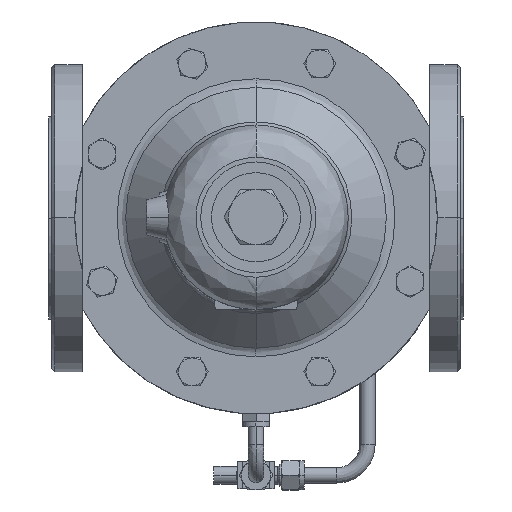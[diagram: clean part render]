
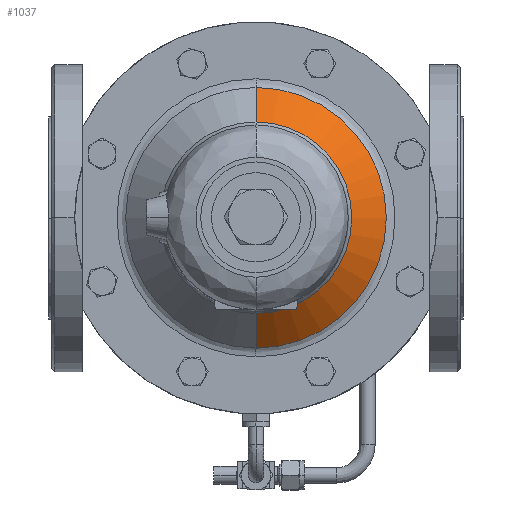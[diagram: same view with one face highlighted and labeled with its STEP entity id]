
A CAD part, top view. The second image highlights one B-rep face of the part: STEP entity #1037.
In plain terms, the highlighted free-form (B-spline) face has degree [2, 1] with [5, 2] control points.
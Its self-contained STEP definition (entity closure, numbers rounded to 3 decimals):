
#1037=ADVANCED_FACE('',(#4439),#4438,.T.);
#4438=( BOUNDED_SURFACE() B_SPLINE_SURFACE( 2,1,((#10656,#10657),(#10658,#10659),(#10660,#10661),(#10662,#10663),(#10664,#10665)), .UNSPECIFIED.,.F.,.F.,.F.) B_SPLINE_SURFACE_WITH_KNOTS((3,2,3),(2,2),(0.,0.5,1.),(0.,1.), .UNSPECIFIED. ) GEOMETRIC_REPRESENTATION_ITEM() RATIONAL_B_SPLINE_SURFACE(((1.,1.),(0.707,0.707),(1.,1.),(0.707,0.707),(1.,1.))) REPRESENTATION_ITEM('') SURFACE() );
#4439=FACE_OUTER_BOUND('',#10666,.T.);
#10656=CARTESIAN_POINT('',(0.,0.,110.142));
#10657=CARTESIAN_POINT('',(119.924,0.,-9.782));
#10658=CARTESIAN_POINT('',(0.,0.,110.142));
#10659=CARTESIAN_POINT('',(119.924,-119.924,-9.782));
#10660=CARTESIAN_POINT('',(0.,0.,110.142));
#10661=CARTESIAN_POINT('',(0.,-119.924,-9.782));
#10662=CARTESIAN_POINT('',(0.,0.,110.142));
#10663=CARTESIAN_POINT('',(-119.924,-119.924,-9.782));
#10664=CARTESIAN_POINT('',(0.,0.,110.142));
#10665=CARTESIAN_POINT('',(-119.924,0.,-9.782));
#10666=EDGE_LOOP('',(#14049,#14050,#14051,#14052));
#14049=ORIENTED_EDGE('',*,*,#15994,.F.);
#14050=ORIENTED_EDGE('',*,*,#15997,.F.);
#14051=ORIENTED_EDGE('',*,*,#15998,.T.);
#14052=ORIENTED_EDGE('',*,*,#15999,.T.);
#15994=EDGE_CURVE('',#21664,#21671,#21672,.T.);
#15997=EDGE_CURVE('',#21690,#21664,#21691,.T.);
#15998=EDGE_CURVE('',#21690,#21697,#21698,.T.);
#15999=EDGE_CURVE('',#21697,#21671,#21704,.T.);
#21664=VERTEX_POINT('',#30789);
#21671=VERTEX_POINT('',#30793);
#21672=CIRCLE('',#30797,84.799);
#21690=VERTEX_POINT('',#30805);
#21691=(BOUNDED_CURVE() B_SPLINE_CURVE(1,(#30806,#30807),.UNSPECIFIED.,.F.,.F.) B_SPLINE_CURVE_WITH_KNOTS((2,2),(0.52,0.707),.UNSPECIFIED.) CURVE() GEOMETRIC_REPRESENTATION_ITEM() RATIONAL_B_SPLINE_CURVE((1.,1.)) REPRESENTATION_ITEM('') );
#21697=VERTEX_POINT('',#30808);
#21698=CIRCLE('',#30812,62.343);
#21704=(BOUNDED_CURVE() B_SPLINE_CURVE(1,(#30813,#30814),.UNSPECIFIED.,.F.,.F.) B_SPLINE_CURVE_WITH_KNOTS((2,2),(0.52,0.707),.UNSPECIFIED.) CURVE() GEOMETRIC_REPRESENTATION_ITEM() RATIONAL_B_SPLINE_CURVE((0.75,0.75)) REPRESENTATION_ITEM('') );
#30789=CARTESIAN_POINT('',(84.799,0.,25.343));
#30793=CARTESIAN_POINT('',(-84.799,0.,25.343));
#30794=CARTESIAN_POINT('',(0.,0.,25.343));
#30795=DIRECTION('',(0.,0.,-1.));
#30796=DIRECTION('',(-1.,0.,0.));
#30797=AXIS2_PLACEMENT_3D('',#30794,#30795,#30796);
#30805=CARTESIAN_POINT('',(62.343,0.,47.799));
#30806=CARTESIAN_POINT('',(62.343,0.,47.799));
#30807=CARTESIAN_POINT('',(84.799,0.,25.343));
#30808=CARTESIAN_POINT('',(-62.343,0.,47.799));
#30809=CARTESIAN_POINT('',(0.,0.,47.799));
#30810=DIRECTION('',(0.,0.,-1.));
#30811=DIRECTION('',(-1.,0.,0.));
#30812=AXIS2_PLACEMENT_3D('',#30809,#30810,#30811);
#30813=CARTESIAN_POINT('',(-62.343,0.,47.799));
#30814=CARTESIAN_POINT('',(-84.799,0.,25.343));
